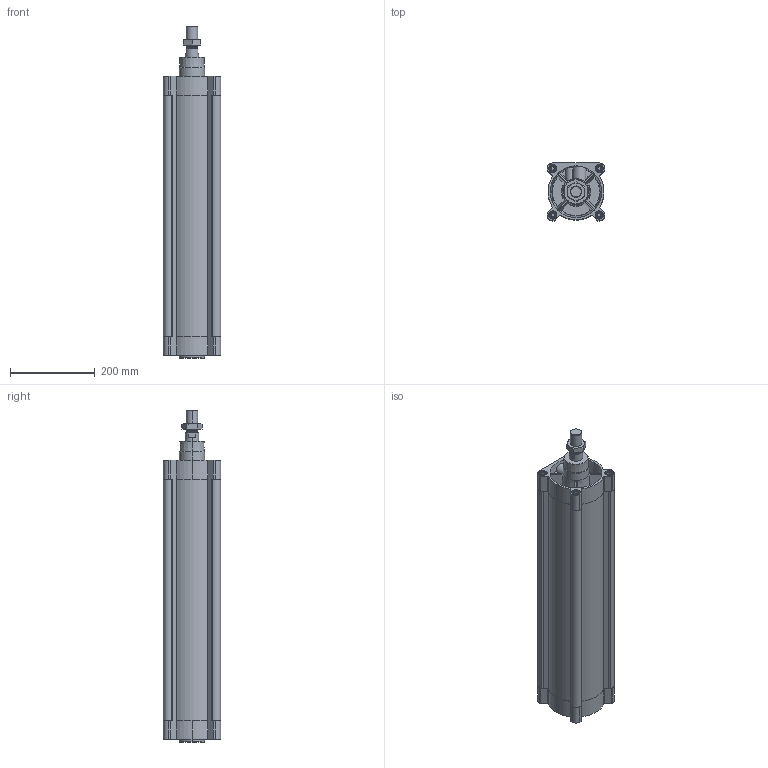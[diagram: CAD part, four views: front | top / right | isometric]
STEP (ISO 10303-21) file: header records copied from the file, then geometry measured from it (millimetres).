
FILE_DESCRIPTION (( 'STEP AP203' ), '1' );
FILE_NAME ('CPME125-500.STEP', '2024-09-05T10:24:59', ( '' ), ( '' ), 'SwSTEP 2.0', 'SolidWorks 2019', '' );
FILE_SCHEMA (( 'CONFIG_CONTROL_DESIGN' ));
Length unit declared in the file: millimetre
Products named in the file (1): CPME125-500
Bounding box: 136 x 136 x 785 mm (x, y, z)
Volume: 4742256.8 mm3; surface area: 888553.6 mm2
Topology: 3 solids, 3 shells, 539 faces, 1371 edges, 878 vertices
Faces by surface type: plane 207, cylinder 206, cone 98, torus 28
Entity records: 19480 total; most frequent: CARTESIAN_POINT 6326, DIRECTION 2767, ORIENTED_EDGE 2742, EDGE_CURVE 1371, AXIS2_PLACEMENT_3D 1051, VERTEX_POINT 878, VECTOR 665, LINE 665
